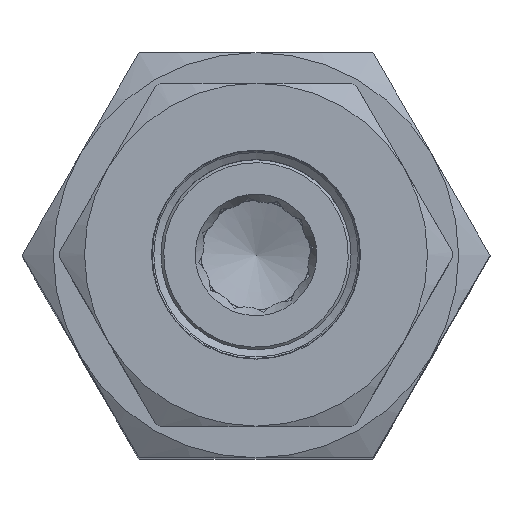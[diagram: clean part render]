
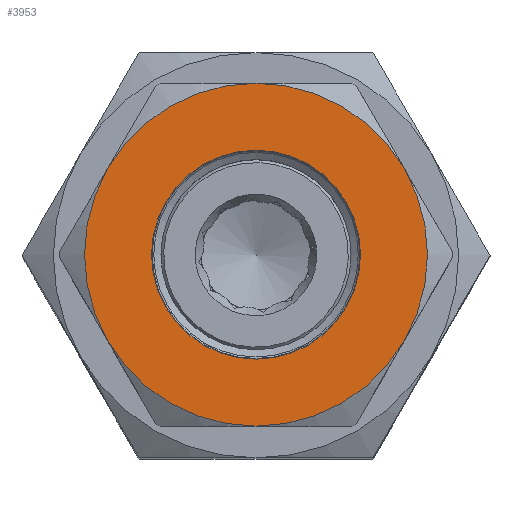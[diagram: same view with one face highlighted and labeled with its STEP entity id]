
A CAD part, top view. The second image highlights one B-rep face of the part: STEP entity #3953.
In plain terms, the highlighted planar face has unit normal (0, 0, 1) as drawn and (-1, 0, 0) by its records, which use the part's own axes.
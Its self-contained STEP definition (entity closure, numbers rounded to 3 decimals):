
#244 = CARTESIAN_POINT ( 'NONE',  ( 0., 0., 0. ) ) ;
#841 = AXIS2_PLACEMENT_3D ( 'NONE', #20028, #8327, #10450 ) ;
#896 = AXIS2_PLACEMENT_3D ( 'NONE', #21593, #20069, #12255 ) ;
#1345 = CARTESIAN_POINT ( 'NONE',  ( 0., 0., 27.5 ) ) ;
#1681 = CARTESIAN_POINT ( 'NONE',  ( 0., 0., 0. ) ) ;
#2253 = VERTEX_POINT ( 'NONE', #8619 ) ;
#2824 = ORIENTED_EDGE ( 'NONE', *, *, #18511, .T. ) ;
#2925 = ORIENTED_EDGE ( 'NONE', *, *, #8735, .T. ) ;
#3248 = CIRCLE ( 'NONE', #841, 27.5 ) ;
#3342 = DIRECTION ( 'NONE',  ( 0., 0., 1. ) ) ;
#3515 = CARTESIAN_POINT ( 'NONE',  ( 0., 23.816, -13.75 ) ) ;
#3684 = DIRECTION ( 'NONE',  ( -1., 0., 0. ) ) ;
#3953 = ADVANCED_FACE ( 'NONE', ( #15138, #18927 ), #13385, .T. ) ;
#4135 = EDGE_CURVE ( 'NONE', #20500, #2253, #4385, .T. ) ;
#4385 = CIRCLE ( 'NONE', #18842, 27.5 ) ;
#4988 = CARTESIAN_POINT ( 'NONE',  ( 0., -23.816, 13.75 ) ) ;
#5229 = DIRECTION ( 'NONE',  ( -1., 0., 0. ) ) ;
#6029 = EDGE_LOOP ( 'NONE', ( #12316, #16945, #14084, #2925, #22917, #2824 ) ) ;
#7204 = DIRECTION ( 'NONE',  ( 0., 0., 1. ) ) ;
#7725 = VERTEX_POINT ( 'NONE', #11270 ) ;
#8066 = DIRECTION ( 'NONE',  ( 1., 0., 0. ) ) ;
#8327 = DIRECTION ( 'NONE',  ( -1., 0., 0. ) ) ;
#8580 = EDGE_CURVE ( 'NONE', #21495, #20500, #19388, .T. ) ;
#8619 = CARTESIAN_POINT ( 'NONE',  ( 0., 0., -27.5 ) ) ;
#8735 = EDGE_CURVE ( 'NONE', #2253, #7725, #11734, .T. ) ;
#9313 = AXIS2_PLACEMENT_3D ( 'NONE', #9392, #11407, #18700 ) ;
#9392 = CARTESIAN_POINT ( 'NONE',  ( 0., 0., 0. ) ) ;
#10073 = DIRECTION ( 'NONE',  ( 0., 0., 1. ) ) ;
#10450 = DIRECTION ( 'NONE',  ( 0., 0., 1. ) ) ;
#10630 = DIRECTION ( 'NONE',  ( -1., 0., 0. ) ) ;
#10765 = CIRCLE ( 'NONE', #16387, 16.75 ) ;
#10878 = CARTESIAN_POINT ( 'NONE',  ( 0., 0., 0. ) ) ;
#11270 = CARTESIAN_POINT ( 'NONE',  ( 0., -23.816, -13.75 ) ) ;
#11407 = DIRECTION ( 'NONE',  ( -1., 0., 0. ) ) ;
#11734 = CIRCLE ( 'NONE', #14543, 27.5 ) ;
#12255 = DIRECTION ( 'NONE',  ( 0., 0., 1. ) ) ;
#12316 = ORIENTED_EDGE ( 'NONE', *, *, #22635, .T. ) ;
#12639 = DIRECTION ( 'NONE',  ( 0., 0., 1. ) ) ;
#12902 = CIRCLE ( 'NONE', #20551, 27.5 ) ;
#13385 = PLANE ( 'NONE',  #21682 ) ;
#14084 = ORIENTED_EDGE ( 'NONE', *, *, #4135, .T. ) ;
#14543 = AXIS2_PLACEMENT_3D ( 'NONE', #14785, #5229, #3342 ) ;
#14558 = CIRCLE ( 'NONE', #896, 27.5 ) ;
#14785 = CARTESIAN_POINT ( 'NONE',  ( 0., 0., 0. ) ) ;
#15048 = EDGE_LOOP ( 'NONE', ( #18341 ) ) ;
#15138 = FACE_BOUND ( 'NONE', #15048, .T. ) ;
#16387 = AXIS2_PLACEMENT_3D ( 'NONE', #244, #8066, #10073 ) ;
#16945 = ORIENTED_EDGE ( 'NONE', *, *, #8580, .T. ) ;
#17165 = CARTESIAN_POINT ( 'NONE',  ( 0., 0., 0. ) ) ;
#18341 = ORIENTED_EDGE ( 'NONE', *, *, #18978, .T. ) ;
#18511 = EDGE_CURVE ( 'NONE', #24267, #23891, #12902, .T. ) ;
#18700 = DIRECTION ( 'NONE',  ( 0., 0., 1. ) ) ;
#18842 = AXIS2_PLACEMENT_3D ( 'NONE', #10878, #10630, #12639 ) ;
#18927 = FACE_OUTER_BOUND ( 'NONE', #6029, .T. ) ;
#18978 = EDGE_CURVE ( 'NONE', #19652, #19652, #10765, .T. ) ;
#19388 = CIRCLE ( 'NONE', #9313, 27.5 ) ;
#19652 = VERTEX_POINT ( 'NONE', #23701 ) ;
#20028 = CARTESIAN_POINT ( 'NONE',  ( 0., 0., 0. ) ) ;
#20069 = DIRECTION ( 'NONE',  ( -1., 0., 0. ) ) ;
#20500 = VERTEX_POINT ( 'NONE', #3515 ) ;
#20551 = AXIS2_PLACEMENT_3D ( 'NONE', #17165, #3684, #7204 ) ;
#20948 = DIRECTION ( 'NONE',  ( 0., 0., 1. ) ) ;
#21495 = VERTEX_POINT ( 'NONE', #22607 ) ;
#21593 = CARTESIAN_POINT ( 'NONE',  ( 0., 0., 0. ) ) ;
#21682 = AXIS2_PLACEMENT_3D ( 'NONE', #1681, #24755, #20948 ) ;
#22607 = CARTESIAN_POINT ( 'NONE',  ( 0., 23.816, 13.75 ) ) ;
#22635 = EDGE_CURVE ( 'NONE', #23891, #21495, #3248, .T. ) ;
#22917 = ORIENTED_EDGE ( 'NONE', *, *, #24587, .T. ) ;
#23701 = CARTESIAN_POINT ( 'NONE',  ( 0., 0., 16.75 ) ) ;
#23891 = VERTEX_POINT ( 'NONE', #1345 ) ;
#24267 = VERTEX_POINT ( 'NONE', #4988 ) ;
#24587 = EDGE_CURVE ( 'NONE', #7725, #24267, #14558, .T. ) ;
#24755 = DIRECTION ( 'NONE',  ( -1., 0., 0. ) ) ;
